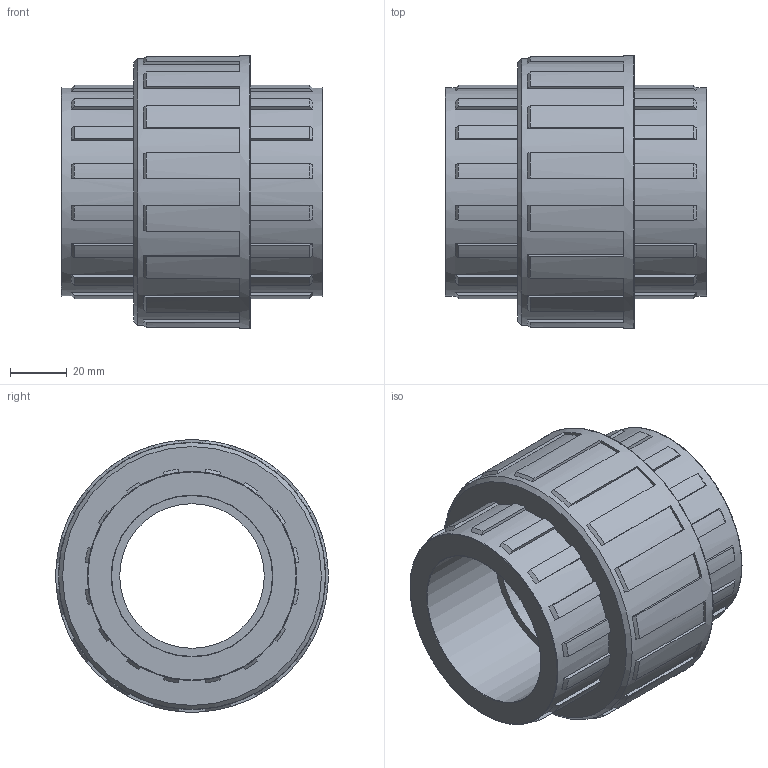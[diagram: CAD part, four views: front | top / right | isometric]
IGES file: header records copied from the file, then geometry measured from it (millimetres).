
Global section: file name: 050801020.ipt; native system: Autodesk Inventor 2015; preprocessor: unknown; author: KIM; date: 20171207.164932; units: millimetre
Bounding box: 92 x 96 x 96 mm (x, y, z)
Volume: 291330 mm3; surface area: 52559.4 mm2
Topology: 1 solids, 1 shells, 211 faces, 625 edges, 420 vertices
Faces by surface type: plane 118, cone 49, cylinder 36, revolution 8
Full cylindrical faces by diameter (mm): 73.641 x2, 94.08 x1, 96 x1
